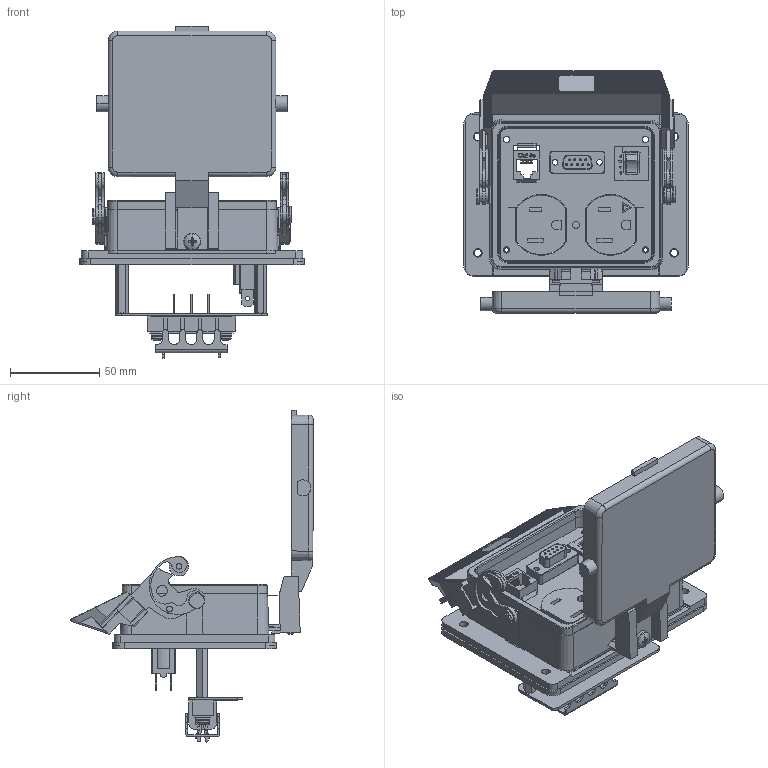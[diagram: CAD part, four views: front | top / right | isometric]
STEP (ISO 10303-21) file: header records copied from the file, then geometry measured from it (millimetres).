
FILE_DESCRIPTION (( 'STEP AP214' ), '1' );
FILE_NAME ('DPIG-DB9-RJ45-R-32.STEP', '2006-07-26T23:22:05', ( 'Mencom' ), ( 'Mencom Corporation' ), 'SwSTEP 2.0', 'SolidWorks 2006104', '' );
FILE_SCHEMA (( 'AUTOMOTIVE_DESIGN' ));
Length unit declared in the file: inch
Products named in the file (1): DPIG-DB9-RJ45-R-32
Bounding box: 125.98 x 135.79 x 185.9 mm (x, y, z)
Surface area: 121405.5 mm2 (no closed solid volume)
Topology: 0 solids, 82 shells, 1456 faces, 5448 edges, 3954 vertices
Faces by surface type: plane 934, cylinder 421, torus 69, cone 18, bspline 8, sphere 6
Entity records: 80341 total; most frequent: CARTESIAN_POINT 15668, DIRECTION 9286, ORIENTED_EDGE 8720, EDGE_CURVE 5448, VERTEX_POINT 3954, VECTOR 3780, LINE 3780, AXIS2_PLACEMENT_3D 2753
